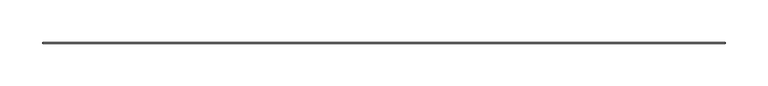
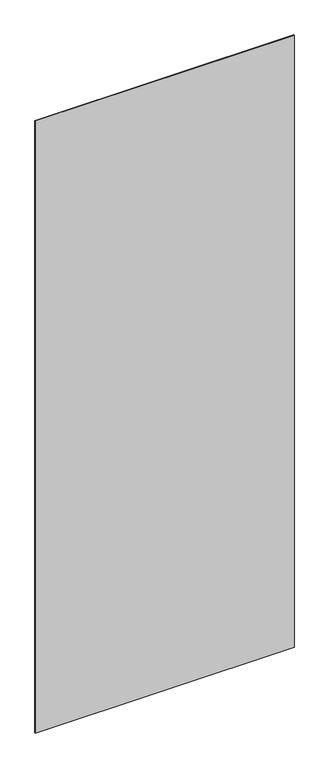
"""IFC4 building model written with IfcOpenShell, lengths in millimetres: proxy geometry, AQUAPANEL showcase solid : AQUAPANEL showcase solid."""

from ifc_helpers import new_model, si_unit, origin, origin_with_axes, place, context, project, spatial, polyline, outline, extrude, source, transform, mapped, element, save


def generic_models_2f911258(model_context):
    return source(origin(), model_context, "Body", "SweptSolid", [
        extrude(outline(polyline([(17886.0136184, 15434.3863455), (18686.0136184, 15434.3863455), (18686.0136184, 15433.3863455), (17886.0136184, 15433.3863455), (17886.0136184, 15434.3863455)])), origin_with_axes(), (0.0, 0.0, 1.0), 2000.0),
    ])


if __name__ == "__main__":
    model = new_model("IFC4")
    model_context = context("Model", 3, world=origin())
    ifc_project = project(units=[si_unit("LENGTHUNIT", "METRE", prefix="MILLI")], contexts=[model_context])
    site = spatial("IfcSite", under=ifc_project)
    building = spatial("IfcBuilding", under=site)
    placement = place(None, origin())
    generic_models_shape = generic_models_2f911258(model_context)
    element("IfcBuildingElementProxy", 1, Name="AQUAPANEL showcase solid : AQUAPANEL showcase solid", ObjectType="AQUAPANEL showcase solid : AQUAPANEL showcase solid", at=placement, inside=building, context=model_context, shape_type="MappedRepresentation", body=[
        mapped(generic_models_shape, transform((0.0, 0.0, 0.0), x_axis=(1.0, 0.0, 0.0), y_axis=(0.0, 1.0, 0.0), z_axis=(0.0, 0.0, 1.0))),
    ])
    save(model, "model.ifc")
